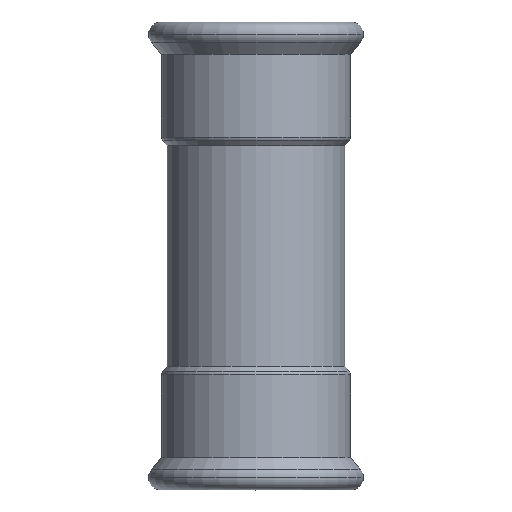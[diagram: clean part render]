
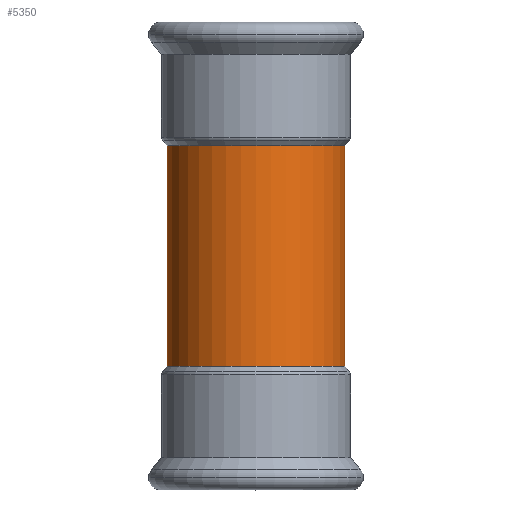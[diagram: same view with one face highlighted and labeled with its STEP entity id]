
A CAD part, top view. The second image highlights one B-rep face of the part: STEP entity #5350.
In plain terms, the highlighted cylindrical face has radius 27 mm (diameter 54 mm), a partial arc.
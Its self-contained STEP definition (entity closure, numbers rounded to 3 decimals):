
#4710=CARTESIAN_POINT('',(-315.511,154.022,
33.5));
#4720=VERTEX_POINT('',#4710);
#4900=CARTESIAN_POINT('',(-261.511,154.022,
33.5));
#4910=VERTEX_POINT('',#4900);
#4940=CARTESIAN_POINT('',(-288.511,154.022,
33.5));
#4950=DIRECTION('',(0.,0.,1.));
#4960=DIRECTION('',(1.,0.,0.));
#4970=AXIS2_PLACEMENT_3D('',#4940,#4950,#4960);
#4980=CIRCLE('',#4970,27.);
#4990=EDGE_CURVE('',#4720,#4910,#4980,.T.);
#5040=CARTESIAN_POINT('',(-288.511,154.022,
-33.5));
#5050=DIRECTION('',(0.,0.,-1.));
#5060=DIRECTION('',(1.,0.,0.));
#5070=AXIS2_PLACEMENT_3D('',#5040,#5050,#5060);
#5080=CYLINDRICAL_SURFACE('',#5070,27.);
#5090=CARTESIAN_POINT('',(-261.511,154.022,
-33.5));
#5100=DIRECTION('',(0.,0.,-1.));
#5110=VECTOR('',#5100,1.);
#5120=LINE('',#5090,#5110);
#5130=CARTESIAN_POINT('',(-261.511,154.022,
-33.5));
#5140=VERTEX_POINT('',#5130);
#5150=EDGE_CURVE('',#4910,#5140,#5120,.T.);
#5160=ORIENTED_EDGE('',*,*,#5150,.F.);
#5170=CARTESIAN_POINT('',(-288.511,154.022,
-33.5));
#5180=DIRECTION('',(0.,0.,-1.));
#5190=DIRECTION('',(1.,0.,0.));
#5200=AXIS2_PLACEMENT_3D('',#5170,#5180,#5190);
#5210=CIRCLE('',#5200,27.);
#5220=CARTESIAN_POINT('',(-315.511,154.022,
-33.5));
#5230=VERTEX_POINT('',#5220);
#5240=EDGE_CURVE('',#5140,#5230,#5210,.T.);
#5250=ORIENTED_EDGE('',*,*,#5240,.F.);
#5260=CARTESIAN_POINT('',(-315.511,154.022,
-33.5));
#5270=DIRECTION('',(0.,0.,-1.));
#5280=VECTOR('',#5270,1.);
#5290=LINE('',#5260,#5280);
#5300=EDGE_CURVE('',#4720,#5230,#5290,.T.);
#5310=ORIENTED_EDGE('',*,*,#5300,.T.);
#5320=ORIENTED_EDGE('',*,*,#4990,.F.);
#5330=EDGE_LOOP('',(#5320,#5310,#5250,#5160));
#5340=FACE_OUTER_BOUND('',#5330,.T.);
#5350=ADVANCED_FACE('',(#5340),#5080,.T.);
